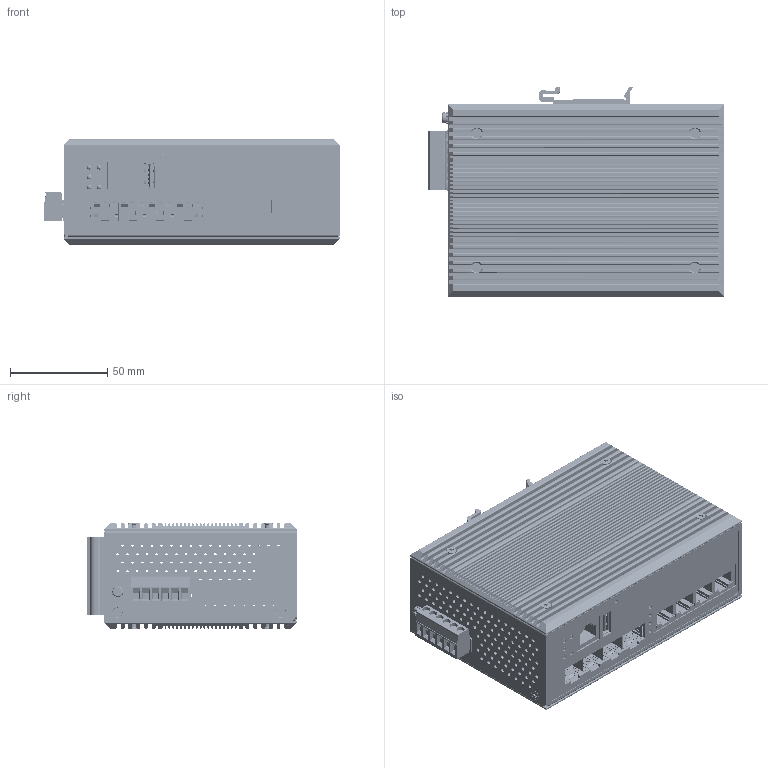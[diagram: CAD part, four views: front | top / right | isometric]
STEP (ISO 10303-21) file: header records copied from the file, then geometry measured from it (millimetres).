
FILE_DESCRIPTION( ( '' ), ' ' );
FILE_NAME( '/vol/tmp/translate-5996221227947764294/5e5d6de9ee7c6314c0c5e394.step', '2020-03-02T20:34:51', ( '' ), ( '' ), ' ', ' ', ' ' );
FILE_SCHEMA( ( 'AUTOMOTIVE_DESIGN { 1 0 10303 214 1 1 1 1 }' ) );
Length unit declared in the file: metre
Products named in the file (58): SFP; SOCKET; RJ45; SWITCH; LED_3POS-2; LED-3POS-1; CONNECTOR_2; CONNECTOR_1; TERMINAL_PLUG; CASE_BOTTOM; TOP-CASE; SIDE_FT; SIDE_RT; GND_SCREW; SCREW_M3X4_F_17; SCREW_M3X4_F_16; SCREW_M3X4_F_15; SCREW_M3X4_F_14; SCREW_M3X4_F_13; SCREW_M3X4_F_12; SCREW_M3X4_F_11; SCREW_M3X4_F_10; SCREW_M3X4_F_9; SCREW_M3X4_F_8; SCREW_M3X4_F_7; SCREW_M3X4_F_6; SCREW_M3X4_F_5; SCREW_M3X4_F_4; SCREW_M3X4_F_3; DIN_RAIL; SCREW_M3X4_F_2; SCREW_M3X4_F_1; SCREW_M3X4_F; MYLAR
Bounding box: 152.12 x 107.8 x 54 mm (x, y, z)
Volume: 132853.2 mm3; surface area: 209424.8 mm2
Topology: 37 solids, 503 shells, 4534 faces, 13658 edges, 9529 vertices
Faces by surface type: plane 2795, cylinder 1429, extrusion 100, cone 81, torus 74, sphere 45, bspline 10
Full cylindrical faces by diameter (mm): 0.5 x12, 1.5 x1, 1.8 x1, 1.9 x245, 2 x65, 2.3 x5, 2.8 x5, 2.9 x8, 3 x37, 3.2 x11, 3.4 x8, 3.5 x7, 3.783 x6, 4 x21, 5 x31, 5.5 x1
Entity records: 196354 total; most frequent: CARTESIAN_POINT 38612, DIRECTION 23922, ORIENTED_EDGE 23902, EDGE_CURVE 12961, VERTEX_POINT 9412, VECTOR 8914, LINE 8814, AXIS2_PLACEMENT_3D 7504
